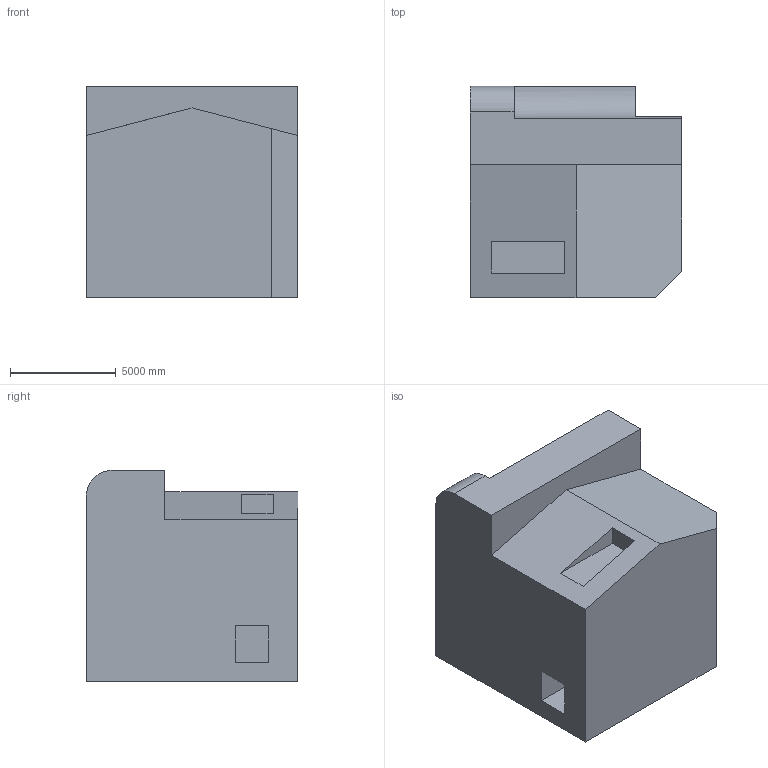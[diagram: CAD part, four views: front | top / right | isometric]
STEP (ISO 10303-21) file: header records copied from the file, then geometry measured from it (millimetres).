
FILE_DESCRIPTION (( 'STEP AP203' ), '1' );
FILE_NAME ('144.STEP', '2022-08-31T14:23:23', ( 'user' ), ( '' ), 'SwSTEP 2.0', 'SolidWorks 2021', '' );
FILE_SCHEMA (( 'CONFIG_CONTROL_DESIGN' ));
Length unit declared in the file: centimetre
Products named in the file (1): 144
Bounding box: 10000 x 10000 x 10000 mm (x, y, z)
Volume: 818303989739.1 mm3; surface area: 599152121.9 mm2
Topology: 1 solids, 1 shells, 29 faces, 75 edges, 50 vertices
Faces by surface type: plane 25, cylinder 4
Entity records: 955 total; most frequent: CARTESIAN_POINT 155, ORIENTED_EDGE 150, DIRECTION 144, EDGE_CURVE 75, LINE 66, VECTOR 66, VERTEX_POINT 50, AXIS2_PLACEMENT_3D 39
